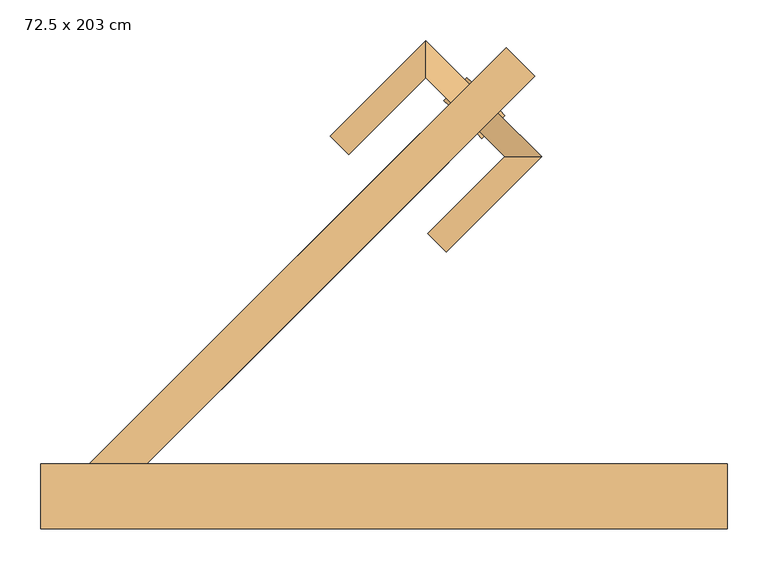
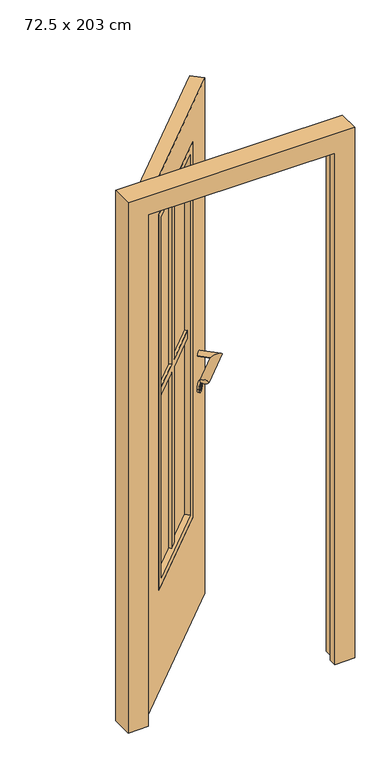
"""IFC4 building model written with IfcOpenShell, lengths in millimetres: door geometry, Puerta abatible con ventana y ventilación  : 72.5 x 203 cm."""

from ifc_helpers import new_model, si_unit, point, frame, frame_2d, origin, place, context, project, spatial, polyline, circle_curve, ellipse_curve, trimmed, segment, composite_curve, outline, extrude, faceted_brep, source, transform, mapped, element, save
from ifc_brep_helpers import plane_surface, cylinder_surface, advanced_brep


def door_72_5_x_203_cm_f417b031(model_context):
    return source(origin(), model_context, "Body", "SolidModel", [
        extrude(outline(composite_curve([segment(trimmed(circle_curve(frame_2d((0.0, -20.0000001)), 20.0), [point((0.0, -40.0000001))], [point((0.0, 0.0))], False, "CARTESIAN"), True, "CONTINUOUS"), segment(trimmed(circle_curve(frame_2d((0.0, -20.0000001)), 20.0), [point((0.0, 0.0))], [point((0.0, -40.0000001))], False, "CARTESIAN"), True, "CONTINUOUS")], self_intersect=False), holes=[composite_curve([segment(polyline([(11.7285952, -14.1141389), (-2.8258407, -17.7429673)]), True, "CONTINUOUS"), segment(trimmed(circle_curve(frame_2d((-7.2874327, -20.0000001)), 5.0), [point((-2.8258407, -17.7429673))], [point((-2.8258407, -22.2570328))], True, "CARTESIAN"), True, "CONTINUOUS"), segment(polyline([(-2.8258407, -22.2570328), (11.7285952, -25.8858612), (11.7285952, -14.1141389)]), True, "CONTINUOUS")], self_intersect=False)]), frame((79.4417382, 481.9417382, 869.9969135), z_axis=(-0.7071067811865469, 0.7071067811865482, 0.0), x_axis=(0.0, 0.0, -1.0)), (0.0, 0.0, 1.0), 8.0),
        advanced_brep(
        [(82.2701654, 484.7701654, 1000.0), (104.8975824, 507.3975824, 1000.0), (51.157467, 515.8828637, 1000.0), (51.157467, 561.1376977, 1000.0), (-43.5948417, 421.1305551, 1000.0), (-66.2222587, 443.7579721, 1000.0)],
        [
            (0, 1, circle_curve(frame((93.5838739, 496.0838739, 1011.8032746), z_axis=(0.7071067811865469, -0.7071067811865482, 0.0), x_axis=(0.7071067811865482, 0.7071067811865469, 0.0)), 19.8825877)),
            (1, 0, circle_curve(frame((93.5838739, 496.0838739, 988.1967254), z_axis=(0.7071067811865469, -0.7071067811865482, 0.0), x_axis=(0.7071067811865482, 0.7071067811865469, 0.0)), 19.8825877)),
            (0, 2),
            (2, 3, ellipse_curve(frame((51.157467, 538.5102807, 1011.8032746), z_axis=(1.0, 0.0, 0.0), x_axis=(0.0, -1.0, 0.0)), 28.1182251, 19.8825877)),
            (3, 1),
            (3, 2, ellipse_curve(frame((51.157467, 538.5102807, 988.1967254), z_axis=(1.0, 0.0, 0.0), x_axis=(0.0, -1.0, 0.0)), 28.1182251, 19.8825877)),
            (4, 5, circle_curve(frame((-54.9085502, 432.4442636, 988.1967254), z_axis=(-0.7071067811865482, -0.7071067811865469, 0.0), x_axis=(-0.7071067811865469, 0.7071067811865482, 0.0)), 19.8825877)),
            (5, 4, circle_curve(frame((-54.9085502, 432.4442636, 1011.8032746), z_axis=(-0.7071067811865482, -0.7071067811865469, 0.0), x_axis=(-0.7071067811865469, 0.7071067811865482, 0.0)), 19.8825877)),
            (2, 4),
            (5, 3),
        ],
        [
            plane_surface(frame((93.5838739, 496.0838739, 1000.0), z_axis=(0.7071067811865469, -0.7071067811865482, 0.0), x_axis=(0.0, 0.0, -1.0))),
            cylinder_surface(frame((93.5838739, 496.0838739, 1011.8032746), z_axis=(0.7071067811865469, -0.7071067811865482, 0.0), x_axis=(0.7071067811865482, 0.7071067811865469, 0.0)), 19.8825877),
            cylinder_surface(frame((93.5838739, 496.0838739, 988.1967254), z_axis=(0.7071067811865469, -0.7071067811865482, 0.0), x_axis=(0.7071067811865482, 0.7071067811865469, 0.0)), 19.8825877),
            plane_surface(frame((-54.9085502, 432.4442636, 1000.0), z_axis=(-0.7071067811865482, -0.7071067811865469, 0.0), x_axis=(0.0, 0.0, -1.0))),
            cylinder_surface(frame((51.157467, 538.5102807, 1011.8032746), z_axis=(0.7071067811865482, 0.7071067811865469, 0.0), x_axis=(-0.7071067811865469, 0.7071067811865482, 0.0)), 19.8825877),
            cylinder_surface(frame((51.157467, 538.5102807, 988.1967254), z_axis=(0.7071067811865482, 0.7071067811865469, 0.0), x_axis=(-0.7071067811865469, 0.7071067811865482, 0.0)), 19.8825877),
        ],
        [
            (0, [[1, 2]]),
            (1, [[-1, 3, 4, 5]]),
            (2, [[-2, -5, 6, -3]]),
            (3, [[7, 8]]),
            (4, [[-4, 9, -8, 10]]),
            (5, [[-6, -10, -7, -9]]),
        ],
    ),
        extrude(outline(composite_curve([segment(trimmed(circle_curve(frame_2d((0.0, -20.0)), 20.0), [point((0.0, -40.0))], [point((0.0, 0.0))], False, "CARTESIAN"), True, "CONTINUOUS"), segment(trimmed(circle_curve(frame_2d((0.0, -20.0)), 20.0), [point((0.0, 0.0))], [point((0.0, -40.0))], False, "CARTESIAN"), True, "CONTINUOUS")], self_intersect=False), holes=[composite_curve([segment(polyline([(2.8258407, -17.7429672), (-11.7285952, -14.1141389), (-11.7285952, -25.8858612), (2.8258407, -22.2570328)]), True, "CONTINUOUS"), segment(trimmed(circle_curve(frame_2d((7.2874327, -20.0)), 5.0), [point((2.8258407, -22.2570328))], [point((2.8258407, -17.7429672))], True, "CARTESIAN"), True, "CONTINUOUS")], self_intersect=False)]), frame((148.7382028, 469.2138162, 869.9969135), z_axis=(-0.7071067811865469, 0.7071067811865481, 0.0), x_axis=(0.0, 0.0, 1.0)), (0.0, 0.0, 1.0), 8.0),
        advanced_brep(
        [(140.2529214, 472.0422433, 1000.0), (117.6255044, 449.4148263, 1000.0), (193.9930368, 418.3021279, 1000.0), (148.7382028, 418.3021279, 1000.0), (76.6133111, 300.9224023, 1000.0), (53.9858941, 323.5498193, 1000.0)],
        [
            (0, 1, circle_curve(frame((128.9392129, 460.7285348, 1011.8032746), z_axis=(-0.7071067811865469, 0.7071067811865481, 0.0), x_axis=(-0.7071067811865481, -0.7071067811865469, 0.0)), 19.8825877)),
            (1, 0, circle_curve(frame((128.9392129, 460.7285348, 988.1967254), z_axis=(-0.7071067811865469, 0.7071067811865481, 0.0), x_axis=(-0.7071067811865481, -0.7071067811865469, 0.0)), 19.8825877)),
            (0, 2),
            (2, 3, ellipse_curve(frame((171.3656198, 418.3021279, 1011.8032746), z_axis=(0.0, 1.0, 0.0), x_axis=(-1.0, 0.0, 0.0)), 28.1182251, 19.8825877)),
            (3, 1),
            (3, 2, ellipse_curve(frame((171.3656198, 418.3021279, 988.1967254), z_axis=(0.0, 1.0, 0.0), x_axis=(-1.0, 0.0, 0.0)), 28.1182251, 19.8825877)),
            (4, 5, circle_curve(frame((65.2996026, 312.2361108, 988.1967254), z_axis=(-0.7071067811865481, -0.7071067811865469, 0.0), x_axis=(-0.7071067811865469, 0.7071067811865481, 0.0)), 19.8825877)),
            (5, 4, circle_curve(frame((65.2996026, 312.2361108, 1011.8032746), z_axis=(-0.7071067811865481, -0.7071067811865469, 0.0), x_axis=(-0.7071067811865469, 0.7071067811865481, 0.0)), 19.8825877)),
            (2, 4),
            (5, 3),
        ],
        [
            plane_surface(frame((128.9392129, 460.7285348, 1000.0), z_axis=(-0.7071067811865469, 0.7071067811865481, 0.0), x_axis=(0.0, 0.0, -1.0))),
            cylinder_surface(frame((128.9392129, 460.7285348, 1011.8032746), z_axis=(-0.7071067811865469, 0.7071067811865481, 0.0), x_axis=(-0.7071067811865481, -0.7071067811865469, 0.0)), 19.8825877),
            cylinder_surface(frame((128.9392129, 460.7285348, 988.1967254), z_axis=(-0.7071067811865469, 0.7071067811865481, 0.0), x_axis=(-0.7071067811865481, -0.7071067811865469, 0.0)), 19.8825877),
            plane_surface(frame((65.2996026, 312.2361108, 1000.0), z_axis=(-0.7071067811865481, -0.7071067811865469, 0.0), x_axis=(0.0, 0.0, -1.0))),
            cylinder_surface(frame((171.3656198, 418.3021279, 1011.8032746), z_axis=(0.7071067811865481, 0.7071067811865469, 0.0), x_axis=(-0.7071067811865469, 0.7071067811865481, 0.0)), 19.8825877),
            cylinder_surface(frame((171.3656198, 418.3021279, 988.1967254), z_axis=(0.7071067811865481, 0.7071067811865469, 0.0), x_axis=(-0.7071067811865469, 0.7071067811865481, 0.0)), 19.8825877),
        ],
        [
            (0, [[1, 2]]),
            (1, [[-1, 3, 4, 5]]),
            (2, [[-2, -5, 6, -3]]),
            (3, [[7, 8]]),
            (4, [[-4, 9, -8, 10]]),
            (5, [[-6, -10, -7, -9]]),
        ],
    ),
        extrude(outline(polyline([(0.0, -725.0), (0.0, 0.0), (2030.0, 0.0), (2030.0, -725.0), (0.0, -725.0)]), holes=[polyline([(1630.0, -575.0), (1630.0, -150.0), (150.0, -150.0), (150.0, -575.0), (1630.0, -575.0)])]), frame((-327.1446609, 4.6446609, 2030.0), z_axis=(-0.7071067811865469, 0.7071067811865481, 0.0), x_axis=(0.0, 0.0, -1.0)), (0.0, 0.0, 1.0), 50.0),
        extrude(outline(polyline([(394.9999999, -30.0), (-30.0000001, -30.0), (-30.0000001, 1450.0), (394.9999999, 1450.0), (394.9999999, -30.0)]), holes=[polyline([(365.0, 1420.0), (0.0, 1420.0), (0.0, 0.0), (365.0, 0.0), (365.0, 1420.0)])]), frame((-199.8654403, 131.9238816, 1850.0), z_axis=(-0.707106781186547, 0.7071067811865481, 0.0), x_axis=(0.7071067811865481, 0.707106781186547, 0.0)), (0.0, 0.0, 1.0), 50.0),
        extrude(outline(polyline([(-235.2207794, 124.8528137), (-242.2918472, 131.9238816), (58.2285348, 432.4442636), (65.2996026, 425.3731957), (-235.2207794, 124.8528137)])), frame((0.0, 0.0, 400.0), z_axis=(0.0, 0.0, 1.0), x_axis=(1.0, 0.0, 0.0)), (0.0, 0.0, 1.0), 1480.0),
        extrude(outline(polyline([(0.0, 0.0), (30.0, 0.0), (30.0, -197.5), (755.0, -197.5), (755.0, -227.5), (30.0, -227.5), (30.0, -425.0), (0.0, -425.0), (0.0, -227.5), (-725.0, -227.5), (-725.0, -197.5), (0.0, -197.5), (0.0, 0.0)])), frame((-228.1497116, 117.7817459, 1155.0), z_axis=(-0.7071067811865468, 0.7071067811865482, 0.0), x_axis=(0.0, 0.0, -1.0)), (0.0, 0.0, 1.0), 30.0),
        faceted_brep([(422.5, -40.0, 0.0), (347.5, -40.0, 0.0), (347.5, -10.0, 0.0), (362.5, -10.0, 0.0), (362.5, 40.0, 0.0), (422.5, 40.0, 0.0), (422.5, -40.0, 2090.0), (-422.5, -40.0, 2090.0), (-422.5, -40.0, 0.0), (-347.5, -40.0, 0.0), (-347.5, -40.0, 2015.0), (347.5, -40.0, 2015.0), (347.5, -10.0, 2015.0), (-347.5, -10.0, 2015.0), (-347.5, -10.0, 0.0), (-362.5, -10.0, 0.0), (-362.5, -10.0, 2030.0), (362.5, -10.0, 2030.0), (362.5, 40.0, 2030.0), (-362.5, 40.0, 2030.0), (-362.5, 40.0, 0.0), (-422.5, 40.0, 0.0), (-422.5, 40.0, 2090.0), (422.5, 40.0, 2090.0)], [[[0, 1, 2, 3, 4, 5]], [[1, 0, 6, 7, 8, 9, 10, 11]], [[2, 1, 11, 12]], [[3, 2, 12, 13, 14, 15, 16, 17]], [[4, 3, 17, 18]], [[5, 4, 18, 19, 20, 21, 22, 23]], [[0, 5, 23, 6]], [[7, 22, 21, 8]], [[8, 21, 20, 15, 14, 9]], [[13, 10, 9, 14]], [[19, 16, 15, 20]], [[12, 11, 10, 13]], [[18, 17, 16, 19]], [[6, 23, 22, 7]]]),
    ])


if __name__ == "__main__":
    model = new_model("IFC4")
    model_context = context("Model", 3, world=origin())
    ifc_project = project(units=[si_unit("LENGTHUNIT", "METRE", prefix="MILLI")], contexts=[model_context])
    site = spatial("IfcSite", under=ifc_project)
    building = spatial("IfcBuilding", under=site)
    placement = place(None, origin())
    door_72_5_x_203_cm_shape = door_72_5_x_203_cm_f417b031(model_context)
    element("IfcDoor", 1, ObjectType="Puerta abatible con ventana y ventilación  : 72.5 x 203 cm", at=placement, inside=building, context=model_context, shape_type="MappedRepresentation", body=[
        mapped(door_72_5_x_203_cm_shape, transform((0.0, 0.0, 0.0), x_axis=(1.0, 0.0, 0.0), y_axis=(0.0, 1.0, 0.0), z_axis=(0.0, 0.0, 1.0))),
    ])
    save(model, "model.ifc")
